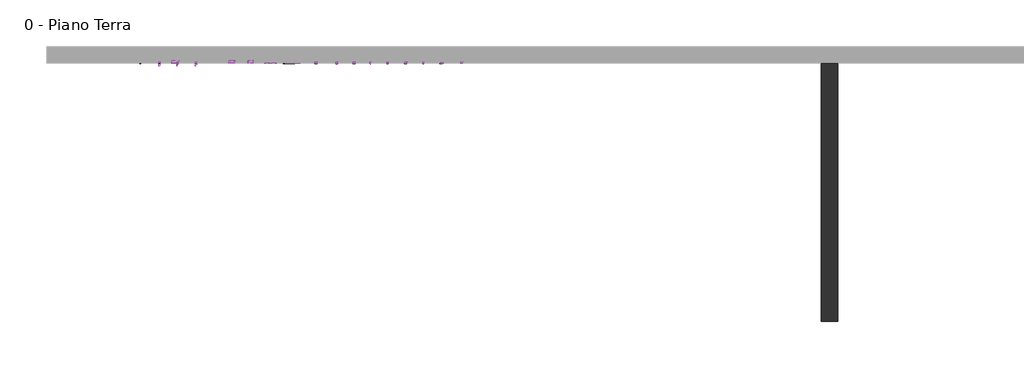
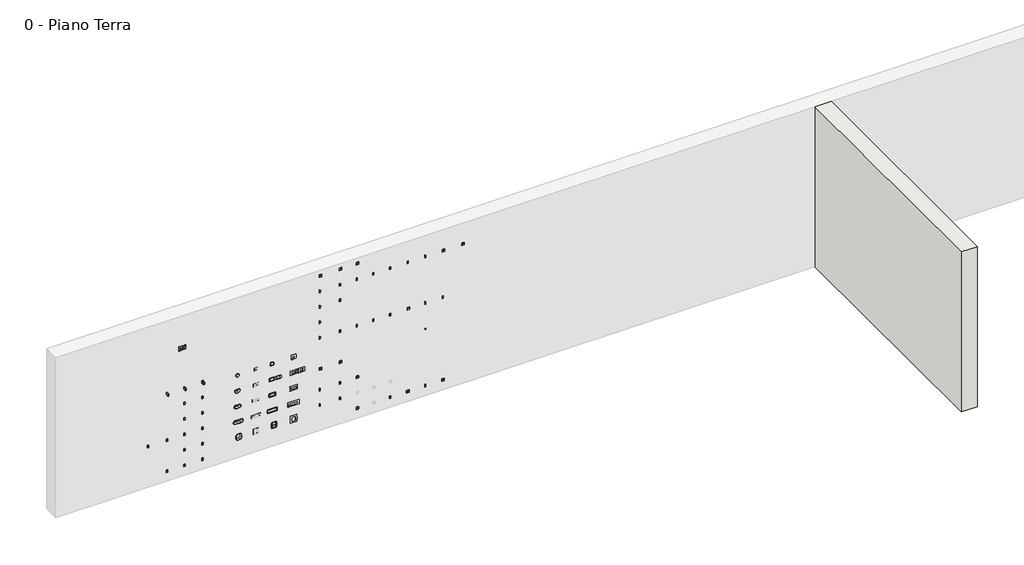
# One storey, part 2 of 2: 76 proxies, 1 wall.
"""IFC4 building model written with IfcOpenShell, lengths in millimetres."""

from ifc_helpers import new_model, si_unit, origin, origin_with_axes, place, context, project, spatial, polyline, outline, extrude, transform, mapped, element, save
from components import electrical_fixtures_02953c03, electrical_fixtures_8fc22a18, electrical_fixtures_c78ca22e, electrical_fixtures_2e6d9e1e, electrical_fixtures_bef21290, electrical_fixtures_cdb56bab, electrical_fixtures_69d80692, electrical_fixtures_b13e1e8f, electrical_fixtures_8cdb0c98, electrical_fixtures_473dbf1e, electrical_fixtures_f618ae87, electrical_fixtures_0906a398, electrical_fixtures_3d832e5a, electrical_fixtures_40dd1942, electrical_fixtures_90f661d9, electrical_fixtures_3b8cf12c, electrical_fixtures_719ed66e, electrical_fixtures_7e059148, electrical_fixtures_ff1b9b6a, electrical_fixtures_370c2459, electrical_fixtures_4c2bc1d1, electrical_fixtures_95e28e94, electrical_fixtures_e5b2e129, electrical_fixtures_721393c5, electrical_fixtures_458b549f, electrical_fixtures_917ed458, electrical_fixtures_5129823d, electrical_fixtures_2412b34e, electrical_fixtures_931b6201, electrical_fixtures_a2e67f04, electrical_fixtures_8e233672, electrical_fixtures_3baacbc4, electrical_fixtures_45f50b36, electrical_fixtures_a53ccfab, l4285_li_usb_l4285_li_usb_a922b814, electrical_fixtures_eec747b0, electrical_fixtures_719190fe, electrical_fixtures_0505fb7d, electrical_fixtures_5bb5539e, electrical_fixtures_c45db058, electrical_fixtures_ccd0ece1, electrical_fixtures_22d4ed9b, electrical_fixtures_c9cf6a91, electrical_fixtures_5a660215, electrical_fixtures_cee1766c, electrical_fixtures_28084733, proxy_00_supporto_e62e41bb, proxy_00_supporto_f49463ef, proxy_00_supporto_2b4d3d83, proxy_00_supporto_6bdeb6a4, proxy_00_supporto_144cd4fb, proxy_00_supporto_8aa1b05d

model = new_model("IFC4")

# Units and contexts
model_context = context("Model", 3, world=origin())
ifc_project = project(units=[si_unit("LENGTHUNIT", "METRE", prefix="MILLI")], contexts=[model_context])

# Site, building, storey
site = spatial("IfcSite", under=ifc_project)
building = spatial("IfcBuilding", under=site)
storey = spatial("IfcBuildingStorey", under=building, Name="0 - Piano Terra", Elevation=0.0)

# Proxies
placement = place(None, origin())
electrical_fixtures_shape = electrical_fixtures_02953c03(model_context)
element("IfcBuildingElementProxy", 1, Name="L4301 LI magnetotermico 1P+N : L4301-16 LI magnetotermico 1P+N 16A 3kA", ObjectType="L4301 LI magnetotermico 1P+N : L4301-16 LI magnetotermico 1P+N 16A 3kA", at=placement, inside=storey, context=model_context, shape_type="MappedRepresentation", body=[
    mapped(electrical_fixtures_shape, transform((-1631.9918403, -424.5551505, 2700.0), x_axis=(1.0, 0.0, 0.0), y_axis=(0.0, 0.0, 1.0), z_axis=(0.0, -1.0, 0.0))),
])
electrical_fixtures_2_shape = electrical_fixtures_8fc22a18(model_context)
element("IfcBuildingElementProxy", 2, Name="L4005N LL Pulsante NO 1P 10A 1m : L4005N LL Pulsante NO 1P 10A 1m", ObjectType="L4005N LL Pulsante NO 1P 10A 1m : L4005N LL Pulsante NO 1P 10A 1m", at=placement, inside=storey, context=model_context, shape_type="MappedRepresentation", body=[
    mapped(electrical_fixtures_2_shape, transform((-3566.0209547, -424.5551505, 1800.0), x_axis=(1.0, 0.0, 0.0), y_axis=(0.0, 0.0, 1.0), z_axis=(0.0, -1.0, 0.0))),
])
electrical_fixtures_3_shape = electrical_fixtures_c78ca22e(model_context)
element("IfcBuildingElementProxy", 3, Name="L4036 LI 2 Pulsanti NO 1P 10A : L4036 LI 2 Pulsanti NO 1P 10A", ObjectType="L4036 LI 2 Pulsanti NO 1P 10A : L4036 LI 2 Pulsanti NO 1P 10A", at=placement, inside=storey, context=model_context, shape_type="MappedRepresentation", body=[
    mapped(electrical_fixtures_3_shape, transform((-2886.73779, -424.5551505, 1800.0), x_axis=(1.0, 0.0, 0.0), y_axis=(0.0, 0.0, 1.0), z_axis=(0.0, -1.0, 0.0))),
])
element("IfcBuildingElementProxy", 4, Name="L4037 LI 2 Pulsanti interbloccato : L4037 LI 2 Pulsanti interbloccato", ObjectType="L4037 LI 2 Pulsanti interbloccato : L4037 LI 2 Pulsanti interbloccato", at=placement, inside=storey, context=model_context, shape_type="MappedRepresentation", body=[
    mapped(electrical_fixtures_3_shape, transform((-2584.8938702, -424.5551505, 1800.0), x_axis=(1.0, 0.0, 0.0), y_axis=(0.0, 0.0, 1.0), z_axis=(0.0, -1.0, 0.0))),
])
electrical_fixtures_4_shape = electrical_fixtures_2e6d9e1e(model_context)
element("IfcBuildingElementProxy", 5, Name="L4038R LI Pulsante NO portalampada rosso : L4038R LI Pulsante NO Portalampada rosso", ObjectType="L4038R LI Pulsante NO portalampada rosso : L4038R LI Pulsante NO Portalampada rosso", at=placement, inside=storey, context=model_context, shape_type="MappedRepresentation", body=[
    mapped(electrical_fixtures_4_shape, transform((-2275.3798643, -424.5551505, 1800.0), x_axis=(1.0, 0.0, 0.0), y_axis=(0.0, 0.0, 1.0), z_axis=(0.0, -1.0, 0.0))),
])
element("IfcBuildingElementProxy", 6, Name="L4038V LI Pulsante NO portalampada verde : L4038V LI Pulsante NO Portalampada verde", ObjectType="L4038V LI Pulsante NO portalampada verde : L4038V LI Pulsante NO Portalampada verde", at=placement, inside=storey, context=model_context, shape_type="MappedRepresentation", body=[
    mapped(electrical_fixtures_3_shape, transform((-3196.717611, -424.5551505, 1800.0), x_axis=(1.0, 0.0, 0.0), y_axis=(0.0, 0.0, 1.0), z_axis=(0.0, -1.0, 0.0))),
])
electrical_fixtures_5_shape = electrical_fixtures_bef21290(model_context)
element("IfcBuildingElementProxy", 7, Name="L4385-12 LI specula : L4835-12B LI specula bianca", ObjectType="L4385-12 LI specula : L4835-12B LI specula bianca", at=placement, inside=storey, context=model_context, shape_type="MappedRepresentation", body=[
    mapped(electrical_fixtures_5_shape, transform((-5714.0209547, -424.5551505, 1700.0), x_axis=(1.0, 0.0, 0.0), y_axis=(0.0, 0.0, 1.0), z_axis=(0.0, -1.0, 0.0))),
])
element("IfcBuildingElementProxy", 8, Name="L4385-24 LI specula : LN4835-24B LI specula bianca", ObjectType="L4385-24 LI specula : LN4835-24B LI specula bianca", at=placement, inside=storey, context=model_context, shape_type="MappedRepresentation", body=[
    mapped(electrical_fixtures_5_shape, transform((-6047.0209547, -424.5551505, 1700.0), x_axis=(1.0, 0.0, 0.0), y_axis=(0.0, 0.0, 1.0), z_axis=(0.0, -1.0, 0.0))),
])
element("IfcBuildingElementProxy", 9, Name="L4385-230 LI specula : LN4835-230B LI specula bianca", ObjectType="L4385-230 LI specula : LN4835-230B LI specula bianca", at=placement, inside=storey, context=model_context, shape_type="MappedRepresentation", body=[
    mapped(electrical_fixtures_5_shape, transform((-6368.0209547, -424.5551505, 1700.0), x_axis=(1.0, 0.0, 0.0), y_axis=(0.0, 0.0, 1.0), z_axis=(0.0, -1.0, 0.0))),
])
electrical_fixtures_6_shape = electrical_fixtures_cdb56bab(model_context)
element("IfcBuildingElementProxy", 10, Name="L4950 LI falso polo : L4950 LI falso polo", ObjectType="L4950 LI falso polo : L4950 LI falso polo", at=placement, inside=storey, context=model_context, shape_type="MappedRepresentation", body=[
    mapped(electrical_fixtures_6_shape, transform((-1311.0209547, -424.5551505, 1800.0), x_axis=(1.0, 0.0, 0.0), y_axis=(0.0, 0.0, 1.0), z_axis=(0.0, -1.0, 0.0))),
])
electrical_fixtures_7_shape = electrical_fixtures_69d80692(model_context)
element("IfcBuildingElementProxy", 11, Name="00-Scatola da cartongesso : Scatola 3 moduli", ObjectType="00-Scatola da cartongesso : Scatola 3 moduli", at=placement, inside=storey, context=model_context, shape_type="MappedRepresentation", body=[
    mapped(electrical_fixtures_7_shape, transform((-5070.0209547, -424.5551505, 1296.5), x_axis=(1.0, 0.0, 0.0), y_axis=(0.0, 0.0, 1.0), z_axis=(0.0, -1.0, 0.0))),
])
electrical_fixtures_8_shape = electrical_fixtures_b13e1e8f(model_context)
element("IfcBuildingElementProxy", 12, Name="00-Scatola da cartongesso : Scatola 4 moduli", ObjectType="00-Scatola da cartongesso : Scatola 4 moduli", at=placement, inside=storey, context=model_context, shape_type="MappedRepresentation", body=[
    mapped(electrical_fixtures_8_shape, transform((-5070.0209547, -424.5551505, 996.5), x_axis=(1.0, 0.0, 0.0), y_axis=(0.0, 0.0, 1.0), z_axis=(0.0, -1.0, 0.0))),
])
electrical_fixtures_9_shape = electrical_fixtures_8cdb0c98(model_context)
element("IfcBuildingElementProxy", 13, Name="00-Scatola da cartongesso : Scatola 7 moduli in linea", ObjectType="00-Scatola da cartongesso : Scatola 7 moduli in linea", at=placement, inside=storey, context=model_context, shape_type="MappedRepresentation", body=[
    mapped(electrical_fixtures_9_shape, transform((-5058.0209547, -424.5551505, 696.5), x_axis=(1.0, 0.0, 0.0), y_axis=(0.0, 0.0, 1.0), z_axis=(0.0, -1.0, 0.0))),
])
electrical_fixtures_10_shape = electrical_fixtures_473dbf1e(model_context)
element("IfcBuildingElementProxy", 14, Name="00-Scatola da cartongesso : Scatola 6 moduli quadrata", ObjectType="00-Scatola da cartongesso : Scatola 6 moduli quadrata", at=placement, inside=storey, context=model_context, shape_type="MappedRepresentation", body=[
    mapped(electrical_fixtures_10_shape, transform((-5045.0209547, -424.5551505, 400.0), x_axis=(1.0, 0.0, 0.0), y_axis=(0.0, 0.0, 1.0), z_axis=(0.0, -1.0, 0.0))),
])
electrical_fixtures_11_shape = electrical_fixtures_f618ae87(model_context)
element("IfcBuildingElementProxy", 15, Name="00-Scatola da cartongesso : Scatola 2 moduli", ObjectType="00-Scatola da cartongesso : Scatola 2 moduli", at=placement, inside=storey, context=model_context, shape_type="MappedRepresentation", body=[
    mapped(electrical_fixtures_11_shape, transform((-5070.0209547, -424.5551505, 1598.5), x_axis=(1.0, 0.0, 0.0), y_axis=(0.0, 0.0, 1.0), z_axis=(0.0, -1.0, 0.0))),
])
electrical_fixtures_12_shape = electrical_fixtures_0906a398(model_context)
element("IfcBuildingElementProxy", 16, Name="L4441 LI Termostato : L4441 LI Termostato", ObjectType="L4441 LI Termostato : L4441 LI Termostato", at=placement, inside=storey, context=model_context, shape_type="MappedRepresentation", body=[
    mapped(electrical_fixtures_12_shape, transform((-3555.0209547, -424.5551505, 1200.0), x_axis=(1.0, 0.0, 0.0), y_axis=(0.0, 0.0, 1.0), z_axis=(0.0, -1.0, 0.0))),
])
element("IfcBuildingElementProxy", 17, Name="L4442 LI Termostato commutatore Est-Inv : L4442 LI Termostatocommutatore Est-Inv", ObjectType="L4442 LI Termostato commutatore Est-Inv : L4442 LI Termostatocommutatore Est-Inv", at=placement, inside=storey, context=model_context, shape_type="MappedRepresentation", body=[
    mapped(electrical_fixtures_12_shape, transform((-3185.717611, -424.5551505, 1200.0), x_axis=(1.0, 0.0, 0.0), y_axis=(0.0, 0.0, 1.0), z_axis=(0.0, -1.0, 0.0))),
])
electrical_fixtures_13_shape = electrical_fixtures_3d832e5a(model_context)
element("IfcBuildingElementProxy", 18, Name="L4214D LL Presa TV-SAT : L4214D LL Presa TV-SAT", ObjectType="L4214D LL Presa TV-SAT : L4214D LL Presa TV-SAT", at=placement, inside=storey, context=model_context, shape_type="MappedRepresentation", body=[
    mapped(electrical_fixtures_13_shape, transform((-6368.0209547, -424.5551505, 200.0), x_axis=(1.0, 0.0, 0.0), y_axis=(0.0, 0.0, 1.0), z_axis=(0.0, -1.0, 0.0))),
])
electrical_fixtures_14_shape = electrical_fixtures_40dd1942(model_context)
element("IfcBuildingElementProxy", 19, Name="L4202F LL Presa TV-SAT : L4202F LL Presa TV-SAT", ObjectType="L4202F LL Presa TV-SAT : L4202F LL Presa TV-SAT", at=placement, inside=storey, context=model_context, shape_type="MappedRepresentation", body=[
    mapped(electrical_fixtures_14_shape, transform((-6047.0209547, -424.5551505, 200.0), x_axis=(1.0, 0.0, 0.0), y_axis=(0.0, 0.0, 1.0), z_axis=(0.0, -1.0, 0.0))),
])
electrical_fixtures_15_shape = electrical_fixtures_90f661d9(model_context)
element("IfcBuildingElementProxy", 20, Name="L4282 LI Presa Video HD15 : L4282 LI Presa Video HD15", ObjectType="L4282 LI Presa Video HD15 : L4282 LI Presa Video HD15", at=placement, inside=storey, context=model_context, shape_type="MappedRepresentation", body=[
    mapped(electrical_fixtures_15_shape, transform((-6047.0209547, -424.5551505, 500.0), x_axis=(1.0, 0.0, 0.0), y_axis=(0.0, 0.0, 1.0), z_axis=(0.0, -1.0, 0.0))),
])
electrical_fixtures_16_shape = electrical_fixtures_3b8cf12c(model_context)
element("IfcBuildingElementProxy", 21, Name="L4279C6A LI Presa RJ : L4279C6A LI Presa RJ", ObjectType="L4279C6A LI Presa RJ : L4279C6A LI Presa RJ", at=placement, inside=storey, context=model_context, shape_type="MappedRepresentation", body=[
    mapped(electrical_fixtures_16_shape, transform((-6715.0209547, -424.5551505, 800.0), x_axis=(1.0, 0.0, 0.0), y_axis=(0.0, 0.0, 1.0), z_axis=(0.0, -1.0, 0.0))),
])
element("IfcBuildingElementProxy", 22, Name="L4279C6 LI Presa RJ : L4279C6 LI Presa RJ", ObjectType="L4279C6 LI Presa RJ : L4279C6 LI Presa RJ", at=placement, inside=storey, context=model_context, shape_type="MappedRepresentation", body=[
    mapped(electrical_fixtures_16_shape, transform((-6368.0209547, -424.5551505, 800.0), x_axis=(1.0, 0.0, 0.0), y_axis=(0.0, 0.0, 1.0), z_axis=(0.0, -1.0, 0.0))),
])
element("IfcBuildingElementProxy", 23, Name="L4279C5E LI Presa RJ : L4279C5E LI Presa RJ", ObjectType="L4279C5E LI Presa RJ : L4279C5E LI Presa RJ", at=placement, inside=storey, context=model_context, shape_type="MappedRepresentation", body=[
    mapped(electrical_fixtures_16_shape, transform((-6047.0209547, -424.5551505, 800.0), x_axis=(1.0, 0.0, 0.0), y_axis=(0.0, 0.0, 1.0), z_axis=(0.0, -1.0, 0.0))),
])
element("IfcBuildingElementProxy", 24, Name="L4258-11 LI Presa RJ : L4258-11 LI Presa RJ", ObjectType="L4258-11 LI Presa RJ : L4258-11 LI Presa RJ", at=placement, inside=storey, context=model_context, shape_type="MappedRepresentation", body=[
    mapped(electrical_fixtures_16_shape, transform((-5714.0209547, -424.5551505, 800.0), x_axis=(1.0, 0.0, 0.0), y_axis=(0.0, 0.0, 1.0), z_axis=(0.0, -1.0, 0.0))),
])
electrical_fixtures_17_shape = electrical_fixtures_719ed66e(model_context)
element("IfcBuildingElementProxy", 25, Name="L4284 LI Presa HDMI : L4284 LI Presa HDMI", ObjectType="L4284 LI Presa HDMI : L4284 LI Presa HDMI", at=placement, inside=storey, context=model_context, shape_type="MappedRepresentation", body=[
    mapped(electrical_fixtures_17_shape, transform((-5714.0209547, -424.5551505, 500.0), x_axis=(1.0, 0.0, 0.0), y_axis=(0.0, 0.0, 1.0), z_axis=(0.0, -1.0, 0.0))),
])
element("IfcBuildingElementProxy", 26, Name="L4003N LL deviatore 1P 16A 1m : L4003N LL Deviatore 1P 16A 1m", ObjectType="L4003N LL deviatore 1P 16A 1m : L4003N LL Deviatore 1P 16A 1m", at=placement, inside=storey, context=model_context, shape_type="MappedRepresentation", body=[
    mapped(electrical_fixtures_2_shape, transform((-3566.0209547, -424.5551505, 2400.0), x_axis=(1.0, 0.0, 0.0), y_axis=(0.0, 0.0, 1.0), z_axis=(0.0, -1.0, 0.0))),
])
element("IfcBuildingElementProxy", 27, Name="L4004N LL invertitore 1P 16A 1m : L4004N LL Invertitore1P 16A 1m", ObjectType="L4004N LL invertitore 1P 16A 1m : L4004N LL Invertitore1P 16A 1m", at=placement, inside=storey, context=model_context, shape_type="MappedRepresentation", body=[
    mapped(electrical_fixtures_2_shape, transform((-3566.0209547, -424.5551505, 2100.0), x_axis=(1.0, 0.0, 0.0), y_axis=(0.0, 0.0, 1.0), z_axis=(0.0, -1.0, 0.0))),
])
electrical_fixtures_18_shape = electrical_fixtures_7e059148(model_context)
element("IfcBuildingElementProxy", 28, Name="L4022 LI deviatore 1P 16A a chiave : L4022 LI deviatore 1P 16A a chiave", ObjectType="L4022 LI deviatore 1P 16A a chiave : L4022 LI deviatore 1P 16A a chiave", at=placement, inside=storey, context=model_context, shape_type="MappedRepresentation", body=[
    mapped(electrical_fixtures_18_shape, transform((-3196.717611, -424.5551505, 2400.0), x_axis=(1.0, 0.0, 0.0), y_axis=(0.0, 0.0, 1.0), z_axis=(0.0, -1.0, 0.0))),
])
electrical_fixtures_19_shape = electrical_fixtures_ff1b9b6a(model_context)
element("IfcBuildingElementProxy", 29, Name="L4202D LL Presa TV-SAT : L4202D LL Presa TV-SAT", ObjectType="L4202D LL Presa TV-SAT : L4202D LL Presa TV-SAT", at=placement, inside=storey, context=model_context, shape_type="MappedRepresentation", body=[
    mapped(electrical_fixtures_19_shape, transform((-5714.0209547, -424.5551505, 200.0), x_axis=(1.0, 0.0, 0.0), y_axis=(0.0, 0.0, 1.0), z_axis=(0.0, -1.0, 0.0))),
])
element("IfcBuildingElementProxy", 30, Name="L4001N LL interruttore 1P 16A 1m : L4001N LL Interruttore 1P 16A 1m", ObjectType="L4001N LL interruttore 1P 16A 1m : L4001N LL Interruttore 1P 16A 1m", at=placement, inside=storey, context=model_context, shape_type="MappedRepresentation", body=[
    mapped(electrical_fixtures_2_shape, transform((-3196.717611, -424.5551505, 2700.0), x_axis=(1.0, 0.0, 0.0), y_axis=(0.0, 0.0, 1.0), z_axis=(0.0, -1.0, 0.0))),
])
element("IfcBuildingElementProxy", 31, Name="L4002N LL interruttore 1P 16A 2m : L4002N LL Interruttore 1P 16A 2m", ObjectType="L4002N LL interruttore 1P 16A 2m : L4002N LL Interruttore 1P 16A 2m", at=placement, inside=storey, context=model_context, shape_type="MappedRepresentation", body=[
    mapped(electrical_fixtures_2_shape, transform((-3566.0209547, -424.5551505, 2700.0), x_axis=(1.0, 0.0, 0.0), y_axis=(0.0, 0.0, 1.0), z_axis=(0.0, -1.0, 0.0))),
])
electrical_fixtures_20_shape = electrical_fixtures_370c2459(model_context)
element("IfcBuildingElementProxy", 32, Name="L4011 LI interruttore 2P 32A 2m  : L4011 LI Interruttore 2P 32A 2m", ObjectType="L4011 LI interruttore 2P 32A 2m  : L4011 LI Interruttore 2P 32A 2m", at=placement, inside=storey, context=model_context, shape_type="MappedRepresentation", body=[
    mapped(electrical_fixtures_20_shape, transform((-2886.73779, -424.5551505, 2700.0), x_axis=(1.0, 0.0, 0.0), y_axis=(0.0, 0.0, 1.0), z_axis=(0.0, -1.0, 0.0))),
])
element("IfcBuildingElementProxy", 33, Name="L4012 LI interruttore 2P 16A a chiave : L4012 LI interruttore 2P 16A a chiave", ObjectType="L4012 LI interruttore 2P 16A a chiave : L4012 LI interruttore 2P 16A a chiave", at=placement, inside=storey, context=model_context, shape_type="MappedRepresentation", body=[
    mapped(electrical_fixtures_18_shape, transform((-2584.8938702, -424.5551505, 2700.0), x_axis=(1.0, 0.0, 0.0), y_axis=(0.0, 0.0, 1.0), z_axis=(0.0, -1.0, 0.0))),
])
electrical_fixtures_21_shape = electrical_fixtures_4c2bc1d1(model_context)
element("IfcBuildingElementProxy", 34, Name="L4033 LI Pulsante NO 1P 10A a tirante : L4033 LI Pulsante NO 1P 10A a tirante", ObjectType="L4033 LI Pulsante NO 1P 10A a tirante : L4033 LI Pulsante NO 1P 10A a tirante", at=placement, inside=storey, context=model_context, shape_type="MappedRepresentation", body=[
    mapped(electrical_fixtures_21_shape, transform((-1631.9918403, -424.5551505, 1800.0), x_axis=(1.0, 0.0, 0.0), y_axis=(0.0, 0.0, 1.0), z_axis=(0.0, -1.0, 0.0))),
])
electrical_fixtures_22_shape = electrical_fixtures_95e28e94(model_context)
element("IfcBuildingElementProxy", 35, Name="L4040 LL Pulsante NO Portanome : L4040 LL Pulsante NO portanome", ObjectType="L4040 LL Pulsante NO Portanome : L4040 LL Pulsante NO portanome", at=placement, inside=storey, context=model_context, shape_type="MappedRepresentation", body=[
    mapped(electrical_fixtures_22_shape, transform((-1941.9918403, -424.5551505, 1800.0), x_axis=(1.0, 0.0, 0.0), y_axis=(0.0, 0.0, 1.0), z_axis=(0.0, -1.0, 0.0))),
])
electrical_fixtures_23_shape = electrical_fixtures_e5b2e129(model_context)
element("IfcBuildingElementProxy", 36, Name="L4113 LI Presa FM 2P+T 10A 250V : L4113 LI Presa FM 2P+T 10A 250V", ObjectType="L4113 LI Presa FM 2P+T 10A 250V : L4113 LI Presa FM 2P+T 10A 250V", at=placement, inside=storey, context=model_context, shape_type="MappedRepresentation", body=[
    mapped(electrical_fixtures_23_shape, transform((-3566.0209547, -424.5551505, 500.0), x_axis=(1.0, 0.0, 0.0), y_axis=(0.0, 0.0, 1.0), z_axis=(0.0, -1.0, 0.0))),
])
electrical_fixtures_24_shape = electrical_fixtures_721393c5(model_context)
element("IfcBuildingElementProxy", 37, Name="L4125 LI Presa FM 2P euro americana : L4125 LI Presa FM 2P euro americana", ObjectType="L4125 LI Presa FM 2P euro americana : L4125 LI Presa FM 2P euro americana", at=placement, inside=storey, context=model_context, shape_type="MappedRepresentation", body=[
    mapped(electrical_fixtures_24_shape, transform((-2275.3798643, -424.5551505, 200.0), x_axis=(1.0, 0.0, 0.0), y_axis=(0.0, 0.0, 1.0), z_axis=(0.0, -1.0, 0.0))),
])
electrical_fixtures_25_shape = electrical_fixtures_458b549f(model_context)
element("IfcBuildingElementProxy", 38, Name="L4126 LI Presa FM 2P+T euro americana : L4126 LI Presa FM 2P+T euro americana", ObjectType="L4126 LI Presa FM 2P+T euro americana : L4126 LI Presa FM 2P+T euro americana", at=placement, inside=storey, context=model_context, shape_type="MappedRepresentation", body=[
    mapped(electrical_fixtures_25_shape, transform((-1952.9918403, -424.5551505, 200.0), x_axis=(1.0, 0.0, 0.0), y_axis=(0.0, 0.0, 1.0), z_axis=(0.0, -1.0, 0.0))),
])
electrical_fixtures_26_shape = electrical_fixtures_917ed458(model_context)
element("IfcBuildingElementProxy", 39, Name="L4127 LI Presa FM 2P UL : L4127 LI Presa FM 2P UL", ObjectType="L4127 LI Presa FM 2P UL : L4127 LI Presa FM 2P UL", at=placement, inside=storey, context=model_context, shape_type="MappedRepresentation", body=[
    mapped(electrical_fixtures_26_shape, transform((-1631.9918403, -424.5551505, 200.0), x_axis=(1.0, 0.0, 0.0), y_axis=(0.0, 0.0, 1.0), z_axis=(0.0, -1.0, 0.0))),
])
electrical_fixtures_27_shape = electrical_fixtures_5129823d(model_context)
element("IfcBuildingElementProxy", 40, Name="L4128 LI Presa FM 2P+T USA : L4128 LI Presa FM 2P+T USA", ObjectType="L4128 LI Presa FM 2P+T USA : L4128 LI Presa FM 2P+T USA", at=placement, inside=storey, context=model_context, shape_type="MappedRepresentation", body=[
    mapped(electrical_fixtures_27_shape, transform((-1311.0209547, -424.5551505, 200.0), x_axis=(1.0, 0.0, 0.0), y_axis=(0.0, 0.0, 1.0), z_axis=(0.0, -1.0, 0.0))),
])
electrical_fixtures_28_shape = electrical_fixtures_2412b34e(model_context)
element("IfcBuildingElementProxy", 41, Name="00-Scatola da incasso : Scatola 3 moduli", ObjectType="00-Scatola da incasso : Scatola 3 moduli", at=placement, inside=storey, context=model_context, shape_type="MappedRepresentation", body=[
    mapped(electrical_fixtures_28_shape, transform((-4735.5209547, -424.5551505, 1300.0), x_axis=(1.0, 0.0, 0.0), y_axis=(0.0, 0.0, 1.0), z_axis=(0.0, -1.0, 0.0))),
])
electrical_fixtures_29_shape = electrical_fixtures_931b6201(model_context)
element("IfcBuildingElementProxy", 42, Name="00-Scatola da incasso : Scatola 4 moduli", ObjectType="00-Scatola da incasso : Scatola 4 moduli", at=placement, inside=storey, context=model_context, shape_type="MappedRepresentation", body=[
    mapped(electrical_fixtures_29_shape, transform((-4735.5209547, -424.5551505, 1000.0), x_axis=(1.0, 0.0, 0.0), y_axis=(0.0, 0.0, 1.0), z_axis=(0.0, -1.0, 0.0))),
])
element("IfcBuildingElementProxy", 43, Name="00-Scatola da incasso : Scatola 4 moduli", ObjectType="00-Scatola da incasso : Scatola 4 moduli", at=placement, inside=storey, context=model_context, shape_type="MappedRepresentation", body=[
    mapped(electrical_fixtures_29_shape, transform((-6086.207539, -424.5551505, 2486.8190499), x_axis=(1.0, 0.0, 0.0), y_axis=(0.0, 0.0, 1.0), z_axis=(0.0, -1.0, 0.0))),
])
electrical_fixtures_30_shape = electrical_fixtures_a2e67f04(model_context)
element("IfcBuildingElementProxy", 44, Name="00-Scatola da incasso : Scatola 7 moduli in linea", ObjectType="00-Scatola da incasso : Scatola 7 moduli in linea", at=placement, inside=storey, context=model_context, shape_type="MappedRepresentation", body=[
    mapped(electrical_fixtures_30_shape, transform((-4735.5209547, -424.5551505, 700.0), x_axis=(1.0, 0.0, 0.0), y_axis=(0.0, 0.0, 1.0), z_axis=(0.0, -1.0, 0.0))),
])
electrical_fixtures_31_shape = electrical_fixtures_8e233672(model_context)
element("IfcBuildingElementProxy", 45, Name="00-Scatola da incasso : Scatola 6 moduli quadrata", ObjectType="00-Scatola da incasso : Scatola 6 moduli quadrata", at=placement, inside=storey, context=model_context, shape_type="MappedRepresentation", body=[
    mapped(electrical_fixtures_31_shape, transform((-4735.5209547, -424.5551505, 400.0), x_axis=(1.0, 0.0, 0.0), y_axis=(0.0, 0.0, 1.0), z_axis=(0.0, -1.0, 0.0))),
])
electrical_fixtures_32_shape = electrical_fixtures_3baacbc4(model_context)
element("IfcBuildingElementProxy", 46, Name="L4150 LI presa std eng : L4150 LI presa std eng", ObjectType="L4150 LI presa std eng : L4150 LI presa std eng", at=placement, inside=storey, context=model_context, shape_type="MappedRepresentation", body=[
    mapped(electrical_fixtures_32_shape, transform((-2875.73779, -424.5551505, 200.0), x_axis=(1.0, 0.0, 0.0), y_axis=(0.0, 0.0, 1.0), z_axis=(0.0, -1.0, 0.0))),
])
electrical_fixtures_33_shape = electrical_fixtures_45f50b36(model_context)
element("IfcBuildingElementProxy", 47, Name="L4180 LI Presa FM 2P+T 10-16A bipasso : L4180 LI Presa 2P+T 10-16A bipasso", ObjectType="L4180 LI Presa FM 2P+T 10-16A bipasso : L4180 LI Presa 2P+T 10-16A bipasso", at=placement, inside=storey, context=model_context, shape_type="MappedRepresentation", body=[
    mapped(electrical_fixtures_33_shape, transform((-3196.717611, -424.5551505, 500.0), x_axis=(1.0, 0.0, 0.0), y_axis=(0.0, 0.0, 1.0), z_axis=(0.0, -1.0, 0.0))),
])
electrical_fixtures_34_shape = electrical_fixtures_a53ccfab(model_context)
element("IfcBuildingElementProxy", 48, Name="L4285C2 LL USB charger 2 prese : L4285C2 LL USB charger 2 prese", ObjectType="L4285C2 LL USB charger 2 prese : L4285C2 LL USB charger 2 prese", at=placement, inside=storey, context=model_context, shape_type="MappedRepresentation", body=[
    mapped(electrical_fixtures_34_shape, transform((-2875.73779, -424.5551505, 799.5), x_axis=(1.0, 0.0, 0.0), y_axis=(0.0, 0.0, 1.0), z_axis=(0.0, -1.0, 0.0))),
])
l4285_li_usb_l4285_li_usb_shape = l4285_li_usb_l4285_li_usb_a922b814(model_context)
element("IfcBuildingElementProxy", 49, Name="L4285C LL USB charger : L4285C LL USB charger", ObjectType="L4285C LL USB charger : L4285C LL USB charger", at=placement, inside=storey, context=model_context, shape_type="MappedRepresentation", body=[
    mapped(l4285_li_usb_l4285_li_usb_shape, transform((-3566.0209547, -424.5551505, 800.0), x_axis=(1.0, 0.0, 0.0), y_axis=(0.0, 0.0, 1.0), z_axis=(0.0, -1.0, 0.0))),
])
electrical_fixtures_35_shape = electrical_fixtures_eec747b0(model_context)
element("IfcBuildingElementProxy", 50, Name="00-Scatola da incasso : Scatola 2 moduli", ObjectType="00-Scatola da incasso : Scatola 2 moduli", at=placement, inside=storey, context=model_context, shape_type="MappedRepresentation", body=[
    mapped(electrical_fixtures_35_shape, transform((-4735.5209547, -424.5551505, 1600.0), x_axis=(1.0, 0.0, 0.0), y_axis=(0.0, 0.0, 1.0), z_axis=(0.0, -1.0, 0.0))),
])
element("IfcBuildingElementProxy", 51, Name="L4301 LI magnetotermico 1P+N : L4301-6 LI magnetotermico 1P+N 6A 1.5kA", ObjectType="L4301 LI magnetotermico 1P+N : L4301-6 LI magnetotermico 1P+N 6A 1.5kA", at=placement, inside=storey, context=model_context, shape_type="MappedRepresentation", body=[
    mapped(electrical_fixtures_shape, transform((-2275.3798643, -424.5551505, 2700.0), x_axis=(1.0, 0.0, 0.0), y_axis=(0.0, 0.0, 1.0), z_axis=(0.0, -1.0, 0.0))),
])
element("IfcBuildingElementProxy", 52, Name="L4301 LI magnetotermico 1P+N : L4301-10 LI magnetotermico 1P+N 10A 3kA", ObjectType="L4301 LI magnetotermico 1P+N : L4301-10 LI magnetotermico 1P+N 10A 3kA", at=placement, inside=storey, context=model_context, shape_type="MappedRepresentation", body=[
    mapped(electrical_fixtures_shape, transform((-1952.9918403, -424.5551505, 2700.0), x_axis=(1.0, 0.0, 0.0), y_axis=(0.0, 0.0, 1.0), z_axis=(0.0, -1.0, 0.0))),
])
electrical_fixtures_36_shape = electrical_fixtures_719190fe(model_context)
element("IfcBuildingElementProxy", 53, Name="L4305 LI magnetotermico 1P+N : L4305-6 LI magnetotermico 1P+N 6A 10mA", ObjectType="L4305 LI magnetotermico 1P+N : L4305-6 LI magnetotermico 1P+N 6A 10mA", at=placement, inside=storey, context=model_context, shape_type="MappedRepresentation", body=[
    mapped(electrical_fixtures_36_shape, transform((-1300.0209547, -424.5551505, 2700.0), x_axis=(1.0, 0.0, 0.0), y_axis=(0.0, 0.0, 1.0), z_axis=(0.0, -1.0, 0.0))),
])
electrical_fixtures_37_shape = electrical_fixtures_0505fb7d(model_context)
element("IfcBuildingElementProxy", 54, Name="L4305 LI magnetotermico 1P+N : L4305-10 LI magnetotermico 1P+N 10A 10mA", ObjectType="L4305 LI magnetotermico 1P+N : L4305-10 LI magnetotermico 1P+N 10A 10mA", at=placement, inside=storey, context=model_context, shape_type="MappedRepresentation", body=[
    mapped(electrical_fixtures_37_shape, transform((-942.0209547, -424.5551505, 2700.0), x_axis=(1.0, 0.0, 0.0), y_axis=(0.0, 0.0, 1.0), z_axis=(0.0, -1.0, 0.0))),
])
electrical_fixtures_38_shape = electrical_fixtures_5bb5539e(model_context)
element("IfcBuildingElementProxy", 55, Name="L4351-12 LI suoneria : L4351-12 LI suoneria", ObjectType="L4351-12 LI suoneria : L4351-12 LI suoneria", at=placement, inside=storey, context=model_context, shape_type="MappedRepresentation", body=[
    mapped(electrical_fixtures_38_shape, transform((-5714.0209547, -424.5551505, 1100.0), x_axis=(1.0, 0.0, 0.0), y_axis=(0.0, 0.0, 1.0), z_axis=(0.0, -1.0, 0.0))),
])
element("IfcBuildingElementProxy", 56, Name="L4351-230 LI suoneria : L4351-230 LI suoneria", ObjectType="L4351-230 LI suoneria : L4351-230 LI suoneria", at=placement, inside=storey, context=model_context, shape_type="MappedRepresentation", body=[
    mapped(electrical_fixtures_38_shape, transform((-6047.0209547, -424.5551505, 1100.0), x_axis=(1.0, 0.0, 0.0), y_axis=(0.0, 0.0, 1.0), z_axis=(0.0, -1.0, 0.0))),
])
element("IfcBuildingElementProxy", 57, Name="L4356-12 LI ronzatore : L4356-12 LI ronzatore", ObjectType="L4356-12 LI ronzatore : L4356-12 LI ronzatore", at=placement, inside=storey, context=model_context, shape_type="MappedRepresentation", body=[
    mapped(electrical_fixtures_38_shape, transform((-5714.0209547, -424.5551505, 1400.0), x_axis=(1.0, 0.0, 0.0), y_axis=(0.0, 0.0, 1.0), z_axis=(0.0, -1.0, 0.0))),
])
element("IfcBuildingElementProxy", 58, Name="L4356-230 LI ronzatore : L4356-230 LI ronzatore", ObjectType="L4356-230 LI ronzatore : L4356-230 LI ronzatore", at=placement, inside=storey, context=model_context, shape_type="MappedRepresentation", body=[
    mapped(electrical_fixtures_38_shape, transform((-6047.0209547, -424.5551505, 1400.0), x_axis=(1.0, 0.0, 0.0), y_axis=(0.0, 0.0, 1.0), z_axis=(0.0, -1.0, 0.0))),
])
electrical_fixtures_39_shape = electrical_fixtures_c45db058(model_context)
element("IfcBuildingElementProxy", 59, Name="L4408N LL Dimmer resistivo induttivo 600W : L4408N LL Dimmer resistivo induttivo 600W", ObjectType="L4408N LL Dimmer resistivo induttivo 600W : L4408N LL Dimmer resistivo induttivo 600W", at=placement, inside=storey, context=model_context, shape_type="MappedRepresentation", body=[
    mapped(electrical_fixtures_39_shape, transform((-3555.0209547, -424.5551505, 3000.0), x_axis=(1.0, 0.0, 0.0), y_axis=(0.0, 0.0, 1.0), z_axis=(0.0, -1.0, 0.0))),
])
element("IfcBuildingElementProxy", 60, Name="L4410N LL Dimmer con uscita 0-10V : L4410N LL Dimmer con uscita 0-10V", ObjectType="L4410N LL Dimmer con uscita 0-10V : L4410N LL Dimmer con uscita 0-10V", at=placement, inside=storey, context=model_context, shape_type="MappedRepresentation", body=[
    mapped(electrical_fixtures_39_shape, transform((-3185.717611, -424.5551505, 3000.0), x_axis=(1.0, 0.0, 0.0), y_axis=(0.0, 0.0, 1.0), z_axis=(0.0, -1.0, 0.0))),
])
element("IfcBuildingElementProxy", 61, Name="L4411N LL Dimmer universale : L4411N LL Dimmer universale", ObjectType="L4411N LL Dimmer universale : L4411N LL Dimmer universale", at=placement, inside=storey, context=model_context, shape_type="MappedRepresentation", body=[
    mapped(electrical_fixtures_39_shape, transform((-2875.73779, -424.5551505, 3000.0), x_axis=(1.0, 0.0, 0.0), y_axis=(0.0, 0.0, 1.0), z_axis=(0.0, -1.0, 0.0))),
])
electrical_fixtures_40_shape = electrical_fixtures_ccd0ece1(model_context)
element("IfcBuildingElementProxy", 62, Name="00-Placca : Placca 3 moduli", ObjectType="00-Placca : Placca 3 moduli", at=placement, inside=storey, context=model_context, shape_type="MappedRepresentation", body=[
    mapped(electrical_fixtures_40_shape, transform((-4045.8028148, -424.5551505, 1300.0), x_axis=(1.0, 0.0, 0.0), y_axis=(0.0, 0.0, 1.0), z_axis=(0.0, -1.0, 0.0))),
])
electrical_fixtures_41_shape = electrical_fixtures_22d4ed9b(model_context)
element("IfcBuildingElementProxy", 63, Name="00-Placca : Placca 2 moduli", ObjectType="00-Placca : Placca 2 moduli", at=placement, inside=storey, context=model_context, shape_type="MappedRepresentation", body=[
    mapped(electrical_fixtures_41_shape, transform((-4045.8028148, -424.5551505, 1600.0), x_axis=(1.0, 0.0, 0.0), y_axis=(0.0, 0.0, 1.0), z_axis=(0.0, -1.0, 0.0))),
])
electrical_fixtures_42_shape = electrical_fixtures_c9cf6a91(model_context)
element("IfcBuildingElementProxy", 64, Name="00-Placca : Placca 2 moduli su scatola 3", ObjectType="00-Placca : Placca 2 moduli su scatola 3", at=placement, inside=storey, context=model_context, shape_type="MappedRepresentation", body=[
    mapped(electrical_fixtures_42_shape, transform((-3903.0758218, -424.5551505, 1300.0), x_axis=(1.0, 0.0, 0.0), y_axis=(0.0, 0.0, 1.0), z_axis=(0.0, -1.0, 0.0))),
])
electrical_fixtures_43_shape = electrical_fixtures_5a660215(model_context)
element("IfcBuildingElementProxy", 65, Name="00-Placca : Placca 4 moduli", ObjectType="00-Placca : Placca 4 moduli", at=placement, inside=storey, context=model_context, shape_type="MappedRepresentation", body=[
    mapped(electrical_fixtures_43_shape, transform((-4045.8028148, -424.5551505, 1000.0), x_axis=(1.0, 0.0, 0.0), y_axis=(0.0, 0.0, 1.0), z_axis=(0.0, -1.0, 0.0))),
])
element("IfcBuildingElementProxy", 66, Name="00-Placca : Placca 4 moduli", ObjectType="00-Placca : Placca 4 moduli", at=placement, inside=storey, context=model_context, shape_type="MappedRepresentation", body=[
    mapped(electrical_fixtures_43_shape, transform((-6086.207539, -424.5551505, 2486.8190499), x_axis=(1.0, 0.0, 0.0), y_axis=(0.0, 0.0, 1.0), z_axis=(0.0, -1.0, 0.0))),
])
electrical_fixtures_44_shape = electrical_fixtures_cee1766c(model_context)
element("IfcBuildingElementProxy", 67, Name="00-Placca : Placca 7 moduli in linea", ObjectType="00-Placca : Placca 7 moduli in linea", at=placement, inside=storey, context=model_context, shape_type="MappedRepresentation", body=[
    mapped(electrical_fixtures_44_shape, transform((-4045.8028148, -424.5551505, 700.0), x_axis=(1.0, 0.0, 0.0), y_axis=(0.0, 0.0, 1.0), z_axis=(0.0, -1.0, 0.0))),
])
electrical_fixtures_45_shape = electrical_fixtures_28084733(model_context)
element("IfcBuildingElementProxy", 68, Name="00-Placca : Placca 6 moduli quadrata", ObjectType="00-Placca : Placca 6 moduli quadrata", at=placement, inside=storey, context=model_context, shape_type="MappedRepresentation", body=[
    mapped(electrical_fixtures_45_shape, transform((-4045.8028148, -424.5551505, 400.0), x_axis=(1.0, 0.0, 0.0), y_axis=(0.0, 0.0, 1.0), z_axis=(0.0, -1.0, 0.0))),
])
proxy_00_supporto_shape = proxy_00_supporto_e62e41bb(model_context)
element("IfcBuildingElementProxy", 69, Name="00-Supporto : Supporto 3 moduli", ObjectType="00-Supporto : Supporto 3 moduli", at=placement, inside=storey, context=model_context, shape_type="MappedRepresentation", body=[
    mapped(proxy_00_supporto_shape, transform((-4435.5209547, -424.5551505, 1300.0), x_axis=(1.0, 0.0, 0.0), y_axis=(0.0, 0.0, 1.0), z_axis=(0.0, -1.0, 0.0))),
])
proxy_00_supporto_2_shape = proxy_00_supporto_f49463ef(model_context)
element("IfcBuildingElementProxy", 70, Name="00-Supporto : Supporto 2 moduli", ObjectType="00-Supporto : Supporto 2 moduli", at=placement, inside=storey, context=model_context, shape_type="MappedRepresentation", body=[
    mapped(proxy_00_supporto_2_shape, transform((-4435.5209547, -424.5551505, 1600.0), x_axis=(1.0, 0.0, 0.0), y_axis=(0.0, 0.0, 1.0), z_axis=(0.0, -1.0, 0.0))),
])
proxy_00_supporto_3_shape = proxy_00_supporto_2b4d3d83(model_context)
element("IfcBuildingElementProxy", 71, Name="00-Supporto : Supporto 2 moduli su scatola 3", ObjectType="00-Supporto : Supporto 2 moduli su scatola 3", at=placement, inside=storey, context=model_context, shape_type="MappedRepresentation", body=[
    mapped(proxy_00_supporto_3_shape, transform((-4317.0209547, -424.5551505, 1300.0), x_axis=(1.0, 0.0, 0.0), y_axis=(0.0, 0.0, 1.0), z_axis=(0.0, -1.0, 0.0))),
])
proxy_00_supporto_4_shape = proxy_00_supporto_6bdeb6a4(model_context)
element("IfcBuildingElementProxy", 72, Name="00-Supporto : Supporto 4 moduli", ObjectType="00-Supporto : Supporto 4 moduli", at=placement, inside=storey, context=model_context, shape_type="MappedRepresentation", body=[
    mapped(proxy_00_supporto_4_shape, transform((-4435.5209547, -424.5551505, 1000.0), x_axis=(1.0, 0.0, 0.0), y_axis=(0.0, 0.0, 1.0), z_axis=(0.0, -1.0, 0.0))),
])
element("IfcBuildingElementProxy", 73, Name="00-Supporto : Supporto 4 moduli", ObjectType="00-Supporto : Supporto 4 moduli", at=placement, inside=storey, context=model_context, shape_type="MappedRepresentation", body=[
    mapped(proxy_00_supporto_4_shape, transform((-6086.207539, -424.5551505, 2486.8190499), x_axis=(1.0, 0.0, 0.0), y_axis=(0.0, 0.0, 1.0), z_axis=(0.0, -1.0, 0.0))),
])
proxy_00_supporto_5_shape = proxy_00_supporto_144cd4fb(model_context)
element("IfcBuildingElementProxy", 74, Name="00-Supporto : Supporto 7 moduli in linea", ObjectType="00-Supporto : Supporto 7 moduli in linea", at=placement, inside=storey, context=model_context, shape_type="MappedRepresentation", body=[
    mapped(proxy_00_supporto_5_shape, transform((-4435.5209547, -424.5551505, 700.0), x_axis=(1.0, 0.0, 0.0), y_axis=(0.0, 0.0, 1.0), z_axis=(0.0, -1.0, 0.0))),
])
proxy_00_supporto_6_shape = proxy_00_supporto_8aa1b05d(model_context)
element("IfcBuildingElementProxy", 75, Name="00-Supporto : Supporto 6 moduli quadrata", ObjectType="00-Supporto : Supporto 6 moduli quadrata", at=placement, inside=storey, context=model_context, shape_type="MappedRepresentation", body=[
    mapped(proxy_00_supporto_6_shape, transform((-4402.5209547, -424.5551505, 407.0), x_axis=(1.0, 0.0, 0.0), y_axis=(0.0, 0.0, 1.0), z_axis=(0.0, -1.0, 0.0))),
])
element("IfcBuildingElementProxy", 76, Name="L4285 LI USB : L4285 LI USB", ObjectType="L4285 LI USB : L4285 LI USB", at=placement, inside=storey, context=model_context, shape_type="MappedRepresentation", body=[
    mapped(l4285_li_usb_l4285_li_usb_shape, transform((-3196.717611, -424.5551505, 800.0), x_axis=(1.0, 0.0, 0.0), y_axis=(0.0, 0.0, 1.0), z_axis=(0.0, -1.0, 0.0))),
])

# Wall
element("IfcWall", 77, ObjectType="Generico - 30 cm", at=placement, inside=storey, context=model_context, shape_type="SweptSolid", body=[
    extrude(outline(polyline([(5509.9790453, -5065.5551505), (5509.9790453, -424.5551505), (5809.9790453, -424.5551505), (5809.9790453, -5065.5551505), (5509.9790453, -5065.5551505)])), origin_with_axes(), (0.0, 0.0, 1.0), 3100.0),
])

save(model, "model.ifc")
